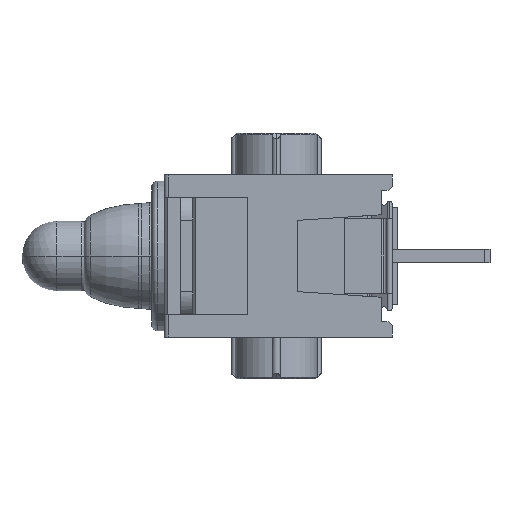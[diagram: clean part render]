
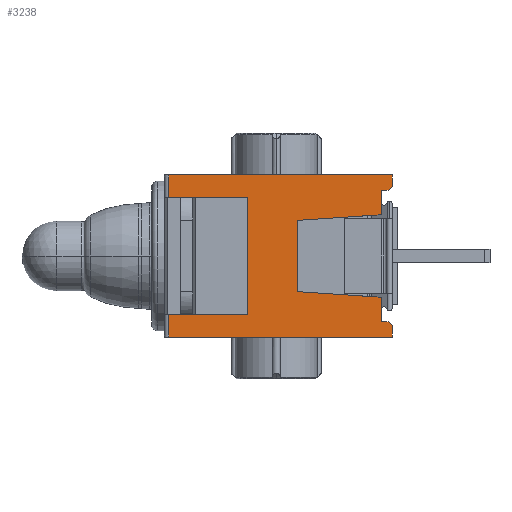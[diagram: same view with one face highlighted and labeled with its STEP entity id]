
A CAD part, left-side view. The second image highlights one B-rep face of the part: STEP entity #3238.
In plain terms, the highlighted planar face has unit normal (-1, 0, 0).
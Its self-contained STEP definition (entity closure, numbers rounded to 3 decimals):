
#2960 = EDGE_LOOP ( 'NONE', ( #2961, #2962, #2965, #2968, #2971, #2974, #2976, #2977, #2978, #2979, #2980, #2983, #2986, #2989, #3044, #3046, #3047, #3048 ) ) ;
#2961 = ORIENTED_EDGE ( 'NONE', *, *, #8965, .F. ) ;
#2962 = ORIENTED_EDGE ( 'NONE', *, *, #2963, .T. ) ;
#2963 = EDGE_CURVE ( 'NONE', #8963, #2964, #17269, .T. ) ;
#2964 = VERTEX_POINT ( 'NONE', #17265 ) ;
#2965 = ORIENTED_EDGE ( 'NONE', *, *, #2966, .F. ) ;
#2966 = EDGE_CURVE ( 'NONE', #2967, #2964, #17264, .T. ) ;
#2967 = VERTEX_POINT ( 'NONE', #17260 ) ;
#2968 = ORIENTED_EDGE ( 'NONE', *, *, #2969, .T. ) ;
#2969 = EDGE_CURVE ( 'NONE', #2967, #2970, #17259, .T. ) ;
#2970 = VERTEX_POINT ( 'NONE', #17255 ) ;
#2971 = ORIENTED_EDGE ( 'NONE', *, *, #2972, .F. ) ;
#2972 = EDGE_CURVE ( 'NONE', #2973, #2970, #17254, .T. ) ;
#2973 = VERTEX_POINT ( 'NONE', #17171 ) ;
#2974 = ORIENTED_EDGE ( 'NONE', *, *, #2975, .T. ) ;
#2975 = EDGE_CURVE ( 'NONE', #2973, #9884, #17170, .T. ) ;
#2976 = ORIENTED_EDGE ( 'NONE', *, *, #9883, .T. ) ;
#2977 = ORIENTED_EDGE ( 'NONE', *, *, #9763, .T. ) ;
#2978 = ORIENTED_EDGE ( 'NONE', *, *, #9772, .T. ) ;
#2979 = ORIENTED_EDGE ( 'NONE', *, *, #9137, .T. ) ;
#2980 = ORIENTED_EDGE ( 'NONE', *, *, #2981, .T. ) ;
#2981 = EDGE_CURVE ( 'NONE', #9135, #2982, #17165, .T. ) ;
#2982 = VERTEX_POINT ( 'NONE', #17514 ) ;
#2983 = ORIENTED_EDGE ( 'NONE', *, *, #2984, .T. ) ;
#2984 = EDGE_CURVE ( 'NONE', #2982, #2985, #17518, .T. ) ;
#2985 = VERTEX_POINT ( 'NONE', #17390 ) ;
#2986 = ORIENTED_EDGE ( 'NONE', *, *, #2987, .T. ) ;
#2987 = EDGE_CURVE ( 'NONE', #2985, #2988, #17517, .T. ) ;
#2988 = VERTEX_POINT ( 'NONE', #17540 ) ;
#2989 = ORIENTED_EDGE ( 'NONE', *, *, #2990, .T. ) ;
#2990 = EDGE_CURVE ( 'NONE', #2988, #2991, #17539, .T. ) ;
#2991 = VERTEX_POINT ( 'NONE', #17533 ) ;
#3044 = ORIENTED_EDGE ( 'NONE', *, *, #3045, .T. ) ;
#3045 = EDGE_CURVE ( 'NONE', #2991, #9698, #17612, .T. ) ;
#3046 = ORIENTED_EDGE ( 'NONE', *, *, #9697, .T. ) ;
#3047 = ORIENTED_EDGE ( 'NONE', *, *, #10008, .T. ) ;
#3048 = ORIENTED_EDGE ( 'NONE', *, *, #10080, .T. ) ;
#3238 = ADVANCED_FACE ( 'NONE', ( #18633 ), #18618, .F. ) ;
#8963 = VERTEX_POINT ( 'NONE', #12561 ) ;
#8965 = EDGE_CURVE ( 'NONE', #8963, #8966, #12711, .T. ) ;
#8966 = VERTEX_POINT ( 'NONE', #12707 ) ;
#9135 = VERTEX_POINT ( 'NONE', #11056 ) ;
#9137 = EDGE_CURVE ( 'NONE', #9138, #9135, #11055, .T. ) ;
#9138 = VERTEX_POINT ( 'NONE', #11051 ) ;
#9697 = EDGE_CURVE ( 'NONE', #9698, #9699, #11818, .T. ) ;
#9698 = VERTEX_POINT ( 'NONE', #11814 ) ;
#9699 = VERTEX_POINT ( 'NONE', #11813 ) ;
#9748 = VERTEX_POINT ( 'NONE', #12034 ) ;
#9763 = EDGE_CURVE ( 'NONE', #9881, #9748, #12073, .T. ) ;
#9772 = EDGE_CURVE ( 'NONE', #9748, #9138, #12239, .T. ) ;
#9881 = VERTEX_POINT ( 'NONE', #12453 ) ;
#9883 = EDGE_CURVE ( 'NONE', #9884, #9881, #12452, .T. ) ;
#9884 = VERTEX_POINT ( 'NONE', #12448 ) ;
#10006 = VERTEX_POINT ( 'NONE', #15047 ) ;
#10008 = EDGE_CURVE ( 'NONE', #9699, #10006, #15045, .T. ) ;
#10080 = EDGE_CURVE ( 'NONE', #10006, #8966, #12999, .T. ) ;
#11051 = CARTESIAN_POINT ( 'NONE',  ( -6.5, 0.35, -2.352 ) ) ;
#11052 = DIRECTION ( 'NONE',  ( 0., 1., 0. ) ) ;
#11053 = VECTOR ( 'NONE', #11052, 1000. ) ;
#11054 = CARTESIAN_POINT ( 'NONE',  ( -6.5, 7.77, -2.353 ) ) ;
#11055 = LINE ( 'NONE', #11054, #11053 ) ;
#11056 = CARTESIAN_POINT ( 'NONE',  ( -6.5, 0.6, -2.352 ) ) ;
#11813 = CARTESIAN_POINT ( 'NONE',  ( -6.5, 0.35, 2.352 ) ) ;
#11814 = CARTESIAN_POINT ( 'NONE',  ( -6.5, 0.6, 2.352 ) ) ;
#11815 = DIRECTION ( 'NONE',  ( 0., -1., 0. ) ) ;
#11816 = VECTOR ( 'NONE', #11815, 1000. ) ;
#11817 = CARTESIAN_POINT ( 'NONE',  ( -6.5, 7.77, 2.353 ) ) ;
#11818 = LINE ( 'NONE', #11817, #11816 ) ;
#12034 = CARTESIAN_POINT ( 'NONE',  ( -6.5, 0.2, -2.502 ) ) ;
#12070 = DIRECTION ( 'NONE',  ( 0., 0., 1. ) ) ;
#12071 = VECTOR ( 'NONE', #12070, 1000. ) ;
#12072 = CARTESIAN_POINT ( 'NONE',  ( -6.5, 0.2, -2.502 ) ) ;
#12073 = LINE ( 'NONE', #12072, #12071 ) ;
#12236 = DIRECTION ( 'NONE',  ( 0., 0.707, 0.707 ) ) ;
#12237 = VECTOR ( 'NONE', #12236, 1000. ) ;
#12238 = CARTESIAN_POINT ( 'NONE',  ( -6.5, 0.2, -2.502 ) ) ;
#12239 = LINE ( 'NONE', #12238, #12237 ) ;
#12448 = CARTESIAN_POINT ( 'NONE',  ( -6.5, 8.205, -2.9 ) ) ;
#12449 = DIRECTION ( 'NONE',  ( 0., -1., 0. ) ) ;
#12450 = VECTOR ( 'NONE', #12449, 1000. ) ;
#12451 = CARTESIAN_POINT ( 'NONE',  ( -6.5, 8.355, -2.9 ) ) ;
#12452 = LINE ( 'NONE', #12451, #12450 ) ;
#12453 = CARTESIAN_POINT ( 'NONE',  ( -6.5, 0.2, -2.9 ) ) ;
#12561 = CARTESIAN_POINT ( 'NONE',  ( -6.5, 8.205, 2.9 ) ) ;
#12707 = CARTESIAN_POINT ( 'NONE',  ( -6.5, 0.2, 2.9 ) ) ;
#12708 = DIRECTION ( 'NONE',  ( 0., -1., 0. ) ) ;
#12709 = VECTOR ( 'NONE', #12708, 1000. ) ;
#12710 = CARTESIAN_POINT ( 'NONE',  ( -6.5, 8.355, 2.9 ) ) ;
#12711 = LINE ( 'NONE', #12710, #12709 ) ;
#12996 = DIRECTION ( 'NONE',  ( 0., 0., 1. ) ) ;
#12997 = VECTOR ( 'NONE', #12996, 1000. ) ;
#12998 = CARTESIAN_POINT ( 'NONE',  ( -6.5, 0.2, 2.502 ) ) ;
#12999 = LINE ( 'NONE', #12998, #12997 ) ;
#15042 = DIRECTION ( 'NONE',  ( 0., -0.707, 0.707 ) ) ;
#15043 = VECTOR ( 'NONE', #15042, 1000. ) ;
#15044 = CARTESIAN_POINT ( 'NONE',  ( -6.5, 0.2, 2.502 ) ) ;
#15045 = LINE ( 'NONE', #15044, #15043 ) ;
#15047 = CARTESIAN_POINT ( 'NONE',  ( -6.5, 0.2, 2.502 ) ) ;
#17010 = DIRECTION ( 'NONE',  ( 0., 0., 1. ) ) ;
#17011 = VECTOR ( 'NONE', #17010, 1000. ) ;
#17164 = CARTESIAN_POINT ( 'NONE',  ( -6.5, 0.6, -2.352 ) ) ;
#17165 = LINE ( 'NONE', #17164, #17011 ) ;
#17167 = DIRECTION ( 'NONE',  ( 0., 0., -1. ) ) ;
#17168 = VECTOR ( 'NONE', #17167, 1000. ) ;
#17169 = CARTESIAN_POINT ( 'NONE',  ( -6.5, 8.205, 2.9 ) ) ;
#17170 = LINE ( 'NONE', #17169, #17168 ) ;
#17171 = CARTESIAN_POINT ( 'NONE',  ( -6.5, 8.205, -2.095 ) ) ;
#17251 = DIRECTION ( 'NONE',  ( 0., -1., 0. ) ) ;
#17252 = VECTOR ( 'NONE', #17251, 1000. ) ;
#17253 = CARTESIAN_POINT ( 'NONE',  ( -6.5, 8.355, -2.095 ) ) ;
#17254 = LINE ( 'NONE', #17253, #17252 ) ;
#17255 = CARTESIAN_POINT ( 'NONE',  ( -6.5, 5.39, -2.095 ) ) ;
#17256 = DIRECTION ( 'NONE',  ( 0., 0., -1. ) ) ;
#17257 = VECTOR ( 'NONE', #17256, 1000. ) ;
#17258 = CARTESIAN_POINT ( 'NONE',  ( -6.5, 5.39, -2.095 ) ) ;
#17259 = LINE ( 'NONE', #17258, #17257 ) ;
#17260 = CARTESIAN_POINT ( 'NONE',  ( -6.5, 5.39, 2.095 ) ) ;
#17261 = DIRECTION ( 'NONE',  ( 0., 1., 0. ) ) ;
#17262 = VECTOR ( 'NONE', #17261, 1000. ) ;
#17263 = CARTESIAN_POINT ( 'NONE',  ( -6.5, 8.355, 2.095 ) ) ;
#17264 = LINE ( 'NONE', #17263, #17262 ) ;
#17265 = CARTESIAN_POINT ( 'NONE',  ( -6.5, 8.205, 2.095 ) ) ;
#17266 = DIRECTION ( 'NONE',  ( 0., 0., -1. ) ) ;
#17267 = VECTOR ( 'NONE', #17266, 1000. ) ;
#17268 = CARTESIAN_POINT ( 'NONE',  ( -6.5, 8.205, 2.9 ) ) ;
#17269 = LINE ( 'NONE', #17268, #17267 ) ;
#17390 = CARTESIAN_POINT ( 'NONE',  ( -6.5, 3.6, -1.275 ) ) ;
#17391 = CARTESIAN_POINT ( 'NONE',  ( -6.5, 0.6, -1.475 ) ) ;
#17514 = CARTESIAN_POINT ( 'NONE',  ( -6.5, 0.6, -1.475 ) ) ;
#17515 = DIRECTION ( 'NONE',  ( 0., 0., 1. ) ) ;
#17516 = CARTESIAN_POINT ( 'NONE',  ( -6.5, 3.6, -2.352 ) ) ;
#17517 = LINE ( 'NONE', #17516, #17541 ) ;
#17518 = LINE ( 'NONE', #17391, #17538 ) ;
#17533 = CARTESIAN_POINT ( 'NONE',  ( -6.5, 0.6, 1.475 ) ) ;
#17534 = DIRECTION ( 'NONE',  ( 0., -0.998, 0.067 ) ) ;
#17535 = VECTOR ( 'NONE', #17534, 1000. ) ;
#17536 = CARTESIAN_POINT ( 'NONE',  ( -6.5, 3.6, 1.275 ) ) ;
#17537 = DIRECTION ( 'NONE',  ( 0., 0.998, 0.067 ) ) ;
#17538 = VECTOR ( 'NONE', #17537, 1000. ) ;
#17539 = LINE ( 'NONE', #17536, #17535 ) ;
#17540 = CARTESIAN_POINT ( 'NONE',  ( -6.5, 3.6, 1.275 ) ) ;
#17541 = VECTOR ( 'NONE', #17515, 1000. ) ;
#17609 = DIRECTION ( 'NONE',  ( 0., 0., 1. ) ) ;
#17610 = VECTOR ( 'NONE', #17609, 1000. ) ;
#17611 = CARTESIAN_POINT ( 'NONE',  ( -6.5, 0.6, 1.475 ) ) ;
#17612 = LINE ( 'NONE', #17611, #17610 ) ;
#18614 = DIRECTION ( 'NONE',  ( 0., 0., -1. ) ) ;
#18615 = DIRECTION ( 'NONE',  ( 1., 0., 0. ) ) ;
#18616 = CARTESIAN_POINT ( 'NONE',  ( -6.5, 8.355, 2.9 ) ) ;
#18617 = AXIS2_PLACEMENT_3D ( 'NONE', #18616, #18615, #18614 ) ;
#18618 = PLANE ( 'NONE',  #18617 ) ;
#18633 = FACE_OUTER_BOUND ( 'NONE', #2960, .T. ) ;
